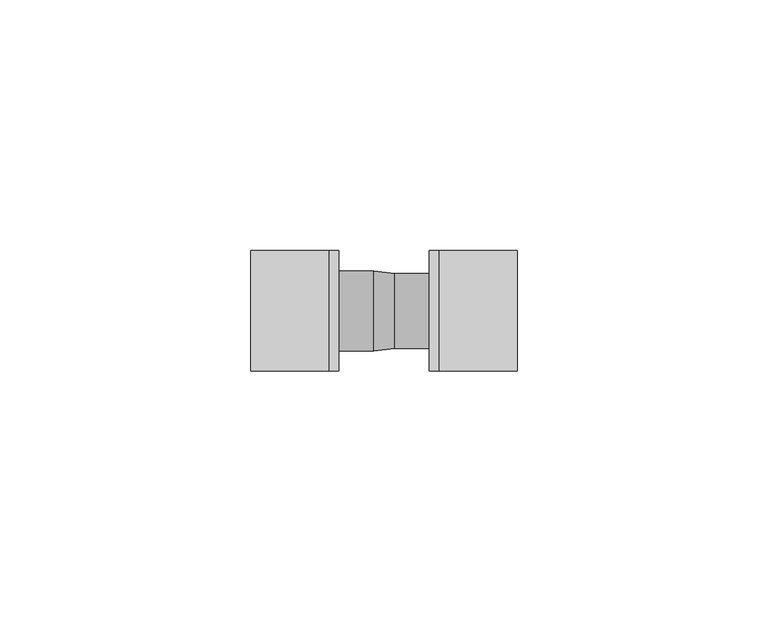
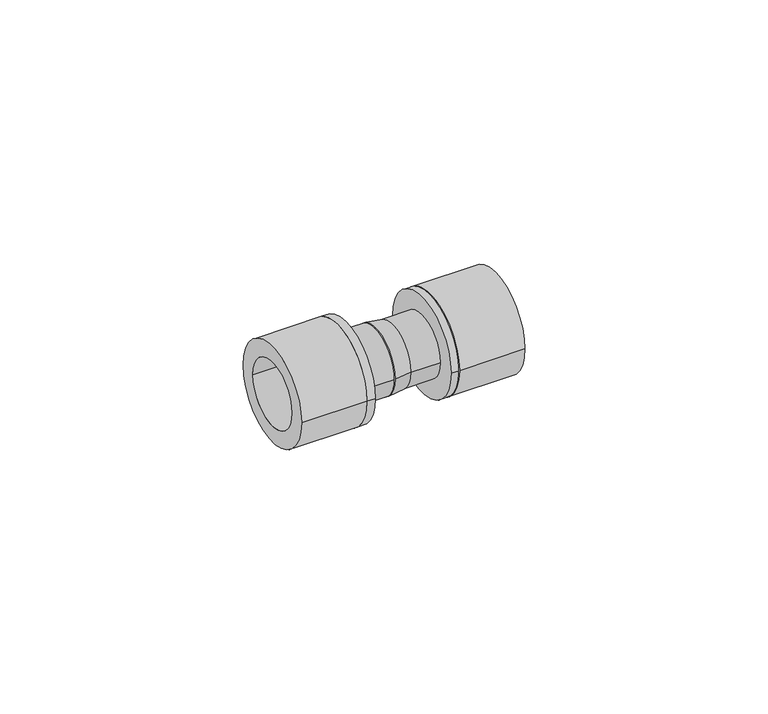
"""IFC4 building model written with IfcOpenShell, lengths in millimetres: pipe fitting geometry, ADSK_Пресс-фитинг ПЭ_Муфта переходная : Пластик черный."""

import ifcopenshell
import ifcopenshell.guid

model = None  # the IFC model being written
_history = None  # IfcOwnerHistory: only IFC2X3 demands one
_inside = {}  # id of a spatial element -> (the spatial element, [elements in it])
_under = {}  # id of a project, library or spatial element -> (it, [spatial elements below it])
_declared = {}  # id of a project -> (the project, [libraries it declares])
_typed = {}  # id of a type object -> (the type object, [elements of that type])
_made_of = {}  # id of a material, layer set ... -> (it, [elements and type objects made of it])


def new_model(schema):
    """Start an empty IFC model of exactly this schema.

    Asked for "IFC4X3", IfcOpenShell would pick the latest addendum, in which some entities
    have other attributes; the version numbers below select the first issue.
    IFC2X3 requires an IfcOwnerHistory on every rooted entity: one is made here for all.
    """
    global model, _history
    if schema == "IFC4X3":
        model = ifcopenshell.file(schema_version=(4, 3, 0, 0))
    else:
        model = ifcopenshell.file(schema=schema)
    _inside.clear()
    _under.clear()
    _declared.clear()
    _typed.clear()
    _made_of.clear()
    _history = None
    if model.schema == "IFC2X3":
        org = make("IfcOrganization", Name="unknown")
        user = make(
            "IfcPersonAndOrganization",
            ThePerson=make("IfcPerson", FamilyName="unknown"),
            TheOrganization=org,
        )
        app = make(
            "IfcApplication",
            ApplicationDeveloper=org,
            Version="unknown",
            ApplicationFullName="unknown",
            ApplicationIdentifier="unknown",
        )
        _history = make(
            "IfcOwnerHistory",
            OwningUser=user,
            OwningApplication=app,
            ChangeAction="ADDED",
            CreationDate=0,
        )
    return model


def make(cls, **values):
    """One entity of the class cls with the attributes given. An attribute that is None is left unset."""
    return model.create_entity(
        cls, **{name: value for name, value in values.items() if value is not None}
    )


def rooted(cls, **values):
    """An entity with a GlobalId (a new one), such as an element, a storey or a relation."""
    return make(cls, GlobalId=ifcopenshell.guid.new(), OwnerHistory=_history, **values)


def si_unit(unit_type, name, prefix=None):
    """IfcSIUnit, for example si_unit("LENGTHUNIT", "METRE", prefix="MILLI")."""
    return make("IfcSIUnit", UnitType=unit_type, Prefix=prefix, Name=name)


def assignment(units):
    """IfcUnitAssignment: the units of a project."""
    return None if units is None else make("IfcUnitAssignment", Units=units)


def point(xyz):
    """IfcCartesianPoint."""
    return None if xyz is None else make("IfcCartesianPoint", Coordinates=xyz)


def direction(xyz):
    """IfcDirection."""
    return None if xyz is None else make("IfcDirection", DirectionRatios=xyz)


def frame(location, z_axis=None, x_axis=None):
    """IfcAxis2Placement3D, a coordinate frame: its origin and axes. An axis left out is left unset."""
    return make(
        "IfcAxis2Placement3D",
        Location=point(location),
        Axis=direction(z_axis),
        RefDirection=direction(x_axis),
    )


def frame_2d(location, x_axis=None):
    """IfcAxis2Placement2D, a coordinate frame in the plane: its origin and x axis."""
    return make(
        "IfcAxis2Placement2D", Location=point(location), RefDirection=direction(x_axis)
    )


def origin():
    """The frame at (0, 0, 0) with its axes left unset."""
    return frame((0.0, 0.0, 0.0))


def origin_2d():
    """The frame at (0, 0) in the plane with its x axis left unset."""
    return frame_2d((0.0, 0.0))


def place(relative_to, where):
    """IfcLocalPlacement: puts the frame where relative to a parent placement (None: the world)."""
    return make(
        "IfcLocalPlacement", PlacementRelTo=relative_to, RelativePlacement=where
    )


def context(
    kind, dimensions, precision=None, world=None, true_north=None, identifier=None
):
    """IfcGeometricRepresentationContext, for example the 3D "Model" context."""
    return make(
        "IfcGeometricRepresentationContext",
        ContextIdentifier=identifier,
        ContextType=kind,
        CoordinateSpaceDimension=dimensions,
        Precision=precision,
        WorldCoordinateSystem=world,
        TrueNorth=true_north,
    )


def project(units=None, contexts=None):
    """IfcProject with its units and contexts."""
    return rooted(
        "IfcProject",
        Name="project",
        RepresentationContexts=contexts,
        UnitsInContext=assignment(units),
    )


def spatial(cls, under=None, at=None, **own):
    """A site, building, storey or space (cls), placed at a placement, below another one or the project."""
    s = rooted(cls, ObjectPlacement=at, **own)
    if under is not None:
        _under.setdefault(under.id(), (under, []))[1].append(s)
    return s


def polyline(points):
    """IfcPolyline through the points."""
    return make("IfcPolyline", Points=[point(p) for p in points])


def circle_curve(where, radius):
    """IfcCircle in the frame where."""
    return make("IfcCircle", Position=where, Radius=radius)


def trimmed(basis, trim1, trim2, sense, master):
    """IfcTrimmedCurve: the piece of a basis curve between two trims."""
    return make(
        "IfcTrimmedCurve",
        BasisCurve=basis,
        Trim1=trim1,
        Trim2=trim2,
        SenseAgreement=sense,
        MasterRepresentation=master,
    )


def segment(curve, same_sense, transition):
    """IfcCompositeCurveSegment."""
    return make(
        "IfcCompositeCurveSegment",
        Transition=transition,
        SameSense=same_sense,
        ParentCurve=curve,
    )


def composite_curve(segments, self_intersect=None):
    """IfcCompositeCurve: segments joined end to end."""
    return make("IfcCompositeCurve", Segments=segments, SelfIntersect=self_intersect)


def outline(outer, holes=None, kind="AREA"):
    """IfcArbitraryClosedProfileDef: a profile drawn as a closed curve; with holes, ...WithVoids."""
    if holes is None:
        return make("IfcArbitraryClosedProfileDef", ProfileType=kind, OuterCurve=outer)
    return make(
        "IfcArbitraryProfileDefWithVoids",
        ProfileType=kind,
        OuterCurve=outer,
        InnerCurves=holes,
    )


def extrude(swept, where, along, depth):
    """IfcExtrudedAreaSolid: the profile swept, set in the frame where, extruded along a direction by depth."""
    return make(
        "IfcExtrudedAreaSolid",
        SweptArea=swept,
        Position=where,
        ExtrudedDirection=direction(along),
        Depth=depth,
    )


def shape(context_of_items, identifier, shape_type, items):
    """IfcShapeRepresentation: the items that make up one representation, for example the "Body"."""
    return make(
        "IfcShapeRepresentation",
        ContextOfItems=context_of_items,
        RepresentationIdentifier=identifier,
        RepresentationType=shape_type,
        Items=items,
    )


def source(mapping_origin, context_of_items, identifier, shape_type, items):
    """IfcRepresentationMap: a shape defined once, which mapped items show again and again."""
    return make(
        "IfcRepresentationMap",
        MappingOrigin=mapping_origin,
        MappedRepresentation=shape(context_of_items, identifier, shape_type, items),
    )


def transform(
    local_origin,
    x_axis=None,
    y_axis=None,
    z_axis=None,
    scale=None,
    scale2=None,
    scale3=None,
    uniform=True,
):
    """IfcCartesianTransformationOperator3D, or its non-uniform kind. x_axis, y_axis, z_axis: its Axis1, 2, 3."""
    if uniform:
        return make(
            "IfcCartesianTransformationOperator3D",
            Axis1=direction(x_axis),
            Axis2=direction(y_axis),
            LocalOrigin=point(local_origin),
            Scale=scale,
            Axis3=direction(z_axis),
        )
    return make(
        "IfcCartesianTransformationOperator3DnonUniform",
        Axis1=direction(x_axis),
        Axis2=direction(y_axis),
        LocalOrigin=point(local_origin),
        Scale=scale,
        Axis3=direction(z_axis),
        Scale2=scale2,
        Scale3=scale3,
    )


def mapped(mapping_source, mapping_target):
    """IfcMappedItem: shows the shape of a source again, moved by a transform."""
    return make(
        "IfcMappedItem", MappingSource=mapping_source, MappingTarget=mapping_target
    )


def made_of(thing, what):
    """Note that an element or type object is made of a material, layer set ...; save() writes the relation."""
    if what is not None:
        _made_of.setdefault(what.id(), (what, []))[1].append(thing)
    return thing


def element(
    cls,
    number,
    at=None,
    inside=None,
    cuts=None,
    type_object=None,
    material=None,
    context=None,
    identifier="Body",
    shape_type=None,
    held_by="IfcProductDefinitionShape",
    body=None,
    shapes=None,
    **own,
):
    """One element of the class cls, such as IfcWall. Its Tag is "e" and its number.

    at: its placement. inside: the storey or other place that contains it. cuts: it is an
    opening in that element (IfcRelVoidsElement). A single representation is given by context,
    identifier, shape_type and body (its items); several are given by shapes. held_by: the class
    of the entity that holds the representations. save() writes the other relations.
    """
    e = rooted(cls, Tag="e%d" % number, ObjectPlacement=at, **own)
    if body is not None:
        shapes = [shape(context, identifier, shape_type, body)]
    if shapes is not None:
        e.Representation = make(held_by, Representations=shapes)
    if inside is not None:
        _inside.setdefault(inside.id(), (inside, []))[1].append(e)
    if cuts is not None:
        rooted(
            "IfcRelVoidsElement", RelatingBuildingElement=cuts, RelatedOpeningElement=e
        )
    if type_object is not None:
        _typed.setdefault(type_object.id(), (type_object, []))[1].append(e)
    return made_of(e, material)


def aggregate(whole, parts):
    """IfcRelAggregates: a whole, such as a stair, and the parts it consists of."""
    return rooted("IfcRelAggregates", RelatingObject=whole, RelatedObjects=parts)


def save(model, path):
    """Write the relations noted so far, then the file.

    IfcRelAggregates (storeys below a building ...), IfcRelContainedInSpatialStructure (elements
    in a storey), IfcRelDefinesByType, IfcRelAssociatesMaterial and IfcRelDeclares: one each for
    every whole, place, type object, material and project.
    """
    for whole, parts in _under.values():
        aggregate(whole, parts)
    for where, things in _inside.values():
        rooted(
            "IfcRelContainedInSpatialStructure",
            RelatedElements=things,
            RelatingStructure=where,
        )
    for kind, things in _typed.values():
        rooted("IfcRelDefinesByType", RelatedObjects=things, RelatingType=kind)
    for what, things in _made_of.values():
        rooted("IfcRelAssociatesMaterial", RelatedObjects=things, RelatingMaterial=what)
    for by, libraries in _declared.values():
        rooted("IfcRelDeclares", RelatingContext=by, RelatedDefinitions=libraries)
    model.write(path)


def plane_surface(at):
    """IfcPlane: the flat surface through the origin of the frame at, square to its z axis."""
    return make("IfcPlane", Position=at)


def revolved_surface(curve, axis_point, axis_direction):
    """IfcSurfaceOfRevolution: the curve turned about the line through axis_point along axis_direction."""
    return make(
        "IfcSurfaceOfRevolution",
        SweptCurve=make("IfcArbitraryOpenProfileDef", ProfileType="CURVE", Curve=curve),
        AxisPosition=make("IfcAxis1Placement", Location=point(axis_point), Axis=direction(axis_direction)),
    )


def advanced_brep(points, edges, surfaces, faces):
    """IfcAdvancedBrep: a solid bounded by faces that lie on surfaces and meet in shared edges.

    An edge is (start, end): straight between two places in points (the first is 0);
    or (start, end, curve); or (start, end, curve, False) where it runs against its curve.
    A face is (place in surfaces, loops), or (place, loops, False) where it looks against
    its surface's normal. A loop lists edges by number (the first is 1), with a minus sign
    where the edge is run from its end to its start. The first loop is the outer one.
    """
    corners = [point(p) for p in points]
    vertices = [make("IfcVertexPoint", VertexGeometry=c) for c in corners]
    made = []
    for start, end, *more in edges:
        made.append(
            make(
                "IfcEdgeCurve",
                EdgeStart=vertices[start],
                EdgeEnd=vertices[end],
                EdgeGeometry=more[0] if more else make("IfcPolyline", Points=[corners[start], corners[end]]),
                SameSense=more[1] if len(more) > 1 else True,
            )
        )
    hull = []
    for where, loops, *sense in faces:
        bounds = []
        for j, loop in enumerate(loops):
            ring = [make("IfcOrientedEdge", EdgeElement=made[abs(k) - 1], Orientation=k > 0) for k in loop]
            bounds.append(
                make(
                    "IfcFaceOuterBound" if j == 0 else "IfcFaceBound",
                    Bound=make("IfcEdgeLoop", EdgeList=ring),
                    Orientation=True,
                )
            )
        hull.append(make("IfcAdvancedFace", Bounds=bounds, FaceSurface=surfaces[where], SameSense=sense[0] if sense else True))
    return make("IfcAdvancedBrep", Outer=make("IfcClosedShell", CfsFaces=hull))


def pipe_fitting_77dfce50(model_context):
    return source(origin(), model_context, "Body", "SolidModel", [
        advanced_brep(
        [(2.0, -7.5, 0.0), (2.0, 7.5, 0.0), (-2.0, -8.0, 0.0), (-2.0, 8.0, 0.0)],
        [
            (0, 1, circle_curve(frame((2.0, 0.0, 0.0), z_axis=(1.0, 0.0, 0.0), x_axis=(0.0, -1.0, 0.0)), 7.5)),
            (1, 0, circle_curve(frame((2.0, 0.0, 0.0), z_axis=(1.0, 0.0, 0.0), x_axis=(0.0, 1.0, 0.0)), 7.5)),
            (2, 3, circle_curve(frame((-2.0, 0.0, 0.0), z_axis=(-1.0, 0.0, 0.0), x_axis=(0.0, 1.0, 0.0)), 8.0)),
            (3, 2, circle_curve(frame((-2.0, 0.0, 0.0), z_axis=(-1.0, 0.0, 0.0), x_axis=(0.0, -1.0, 0.0)), 8.0)),
            (3, 1),
            (0, 2),
        ],
        [
            plane_surface(frame((2.0, 0.0, 0.0), z_axis=(1.0, 0.0, 0.0), x_axis=(0.0, 0.0, -1.0))),
            plane_surface(frame((-2.0, 0.0, 0.0), z_axis=(-1.0, 0.0, 0.0), x_axis=(0.0, 0.0, -1.0))),
            revolved_surface(polyline([(2.0, -7.5, 0.0), (-2.0, -8.0, 0.0)]), (62.0, 0.0, 0.0), (-1.0, 0.0, 0.0)),
            revolved_surface(polyline([(2.0, 7.5, 0.0), (-2.0, 8.0, 0.0)]), (62.0, 0.0, 0.0), (-1.0, 0.0, 0.0)),
        ],
        [
            (0, [[1, 2]]),
            (1, [[3, 4]]),
            (2, [[-4, 5, -1, 6]]),
            (3, [[-3, -6, -2, -5]]),
        ],
    ),
        extrude(outline(composite_curve([segment(trimmed(circle_curve(origin_2d(), 7.5), [point((-7.5, 0.0))], [point((7.5, 0.0))], False, "CARTESIAN"), True, "CONTINUOUS"), segment(trimmed(circle_curve(origin_2d(), 7.5), [point((7.5, 0.0))], [point((-7.5, 0.0))], False, "CARTESIAN"), True, "CONTINUOUS")], self_intersect=False)), frame((2.0, 0.0, 0.0), z_axis=(1.0, 0.0, 0.0), x_axis=(0.0, 1.0, 0.0)), (0.0, 0.0, 1.0), 7.0),
        extrude(outline(composite_curve([segment(trimmed(circle_curve(origin_2d(), 8.0), [point((-8.0, 0.0))], [point((8.0, 0.0))], False, "CARTESIAN"), True, "CONTINUOUS"), segment(trimmed(circle_curve(origin_2d(), 8.0), [point((8.0, 0.0))], [point((-8.0, 0.0))], False, "CARTESIAN"), True, "CONTINUOUS")], self_intersect=False)), frame((-9.0, 0.0, 0.0), z_axis=(1.0, 0.0, 0.0), x_axis=(0.0, 1.0, 0.0)), (0.0, 0.0, 1.0), 7.0),
        extrude(outline(composite_curve([segment(trimmed(circle_curve(origin_2d(), 12.0), [point((-12.0, 0.0))], [point((12.0, 0.0))], False, "CARTESIAN"), True, "CONTINUOUS"), segment(trimmed(circle_curve(origin_2d(), 12.0), [point((12.0, 0.0))], [point((-12.0, 0.0))], False, "CARTESIAN"), True, "CONTINUOUS")], self_intersect=False), holes=[composite_curve([segment(trimmed(circle_curve(origin_2d(), 7.5), [point((-7.5, 0.0))], [point((7.5, 0.0))], True, "CARTESIAN"), True, "CONTINUOUS"), segment(trimmed(circle_curve(origin_2d(), 7.5), [point((7.5, 0.0))], [point((-7.5, 0.0))], True, "CARTESIAN"), True, "CONTINUOUS")], self_intersect=False)]), frame((11.0, 0.0, 0.0), z_axis=(1.0, 0.0, 0.0), x_axis=(0.0, 1.0, 0.0)), (0.0, 0.0, 1.0), 15.5),
        extrude(outline(composite_curve([segment(trimmed(circle_curve(origin_2d(), 12.0), [point((-12.0, 0.0))], [point((12.0, 0.0))], False, "CARTESIAN"), True, "CONTINUOUS"), segment(trimmed(circle_curve(origin_2d(), 12.0), [point((12.0, 0.0))], [point((-12.0, 0.0))], False, "CARTESIAN"), True, "CONTINUOUS")], self_intersect=False), holes=[composite_curve([segment(trimmed(circle_curve(origin_2d(), 8.0), [point((-8.0, 0.0))], [point((8.0, 0.0))], True, "CARTESIAN"), True, "CONTINUOUS"), segment(trimmed(circle_curve(origin_2d(), 8.0), [point((8.0, 0.0))], [point((-8.0, 0.0))], True, "CARTESIAN"), True, "CONTINUOUS")], self_intersect=False)]), frame((-26.5, 0.0, 0.0), z_axis=(1.0, 0.0, 0.0), x_axis=(0.0, 1.0, 0.0)), (0.0, 0.0, 1.0), 15.5),
        extrude(outline(composite_curve([segment(trimmed(circle_curve(origin_2d(), 12.0), [point((-12.0, 0.0))], [point((12.0, 0.0))], False, "CARTESIAN"), True, "CONTINUOUS"), segment(trimmed(circle_curve(origin_2d(), 12.0), [point((12.0, 0.0))], [point((-12.0, 0.0))], False, "CARTESIAN"), True, "CONTINUOUS")], self_intersect=False)), frame((9.0, 0.0, 0.0), z_axis=(1.0, 0.0, 0.0), x_axis=(0.0, 1.0, 0.0)), (0.0, 0.0, 1.0), 2.0),
        extrude(outline(composite_curve([segment(trimmed(circle_curve(origin_2d(), 12.0), [point((-12.0, 0.0))], [point((12.0, 0.0))], False, "CARTESIAN"), True, "CONTINUOUS"), segment(trimmed(circle_curve(origin_2d(), 12.0), [point((12.0, 0.0))], [point((-12.0, 0.0))], False, "CARTESIAN"), True, "CONTINUOUS")], self_intersect=False)), frame((-11.0, 0.0, 0.0), z_axis=(1.0, 0.0, 0.0), x_axis=(0.0, 1.0, 0.0)), (0.0, 0.0, 1.0), 2.0),
    ])


if __name__ == "__main__":
    model = new_model("IFC4")
    model_context = context("Model", 3, world=origin())
    ifc_project = project(units=[si_unit("LENGTHUNIT", "METRE", prefix="MILLI")], contexts=[model_context])
    site = spatial("IfcSite", under=ifc_project)
    building = spatial("IfcBuilding", under=site)
    placement = place(None, origin())
    pipe_fitting_shape = pipe_fitting_77dfce50(model_context)
    element("IfcPipeFitting", 1, ObjectType="ADSK_Пресс-фитинг ПЭ_Муфта переходная : Пластик черный", at=placement, inside=building, context=model_context, shape_type="MappedRepresentation", body=[
        mapped(pipe_fitting_shape, transform((0.0, 0.0, 0.0), x_axis=(1.0, 0.0, 0.0), y_axis=(0.0, 1.0, 0.0), z_axis=(0.0, 0.0, 1.0))),
    ])
    save(model, "model.ifc")
